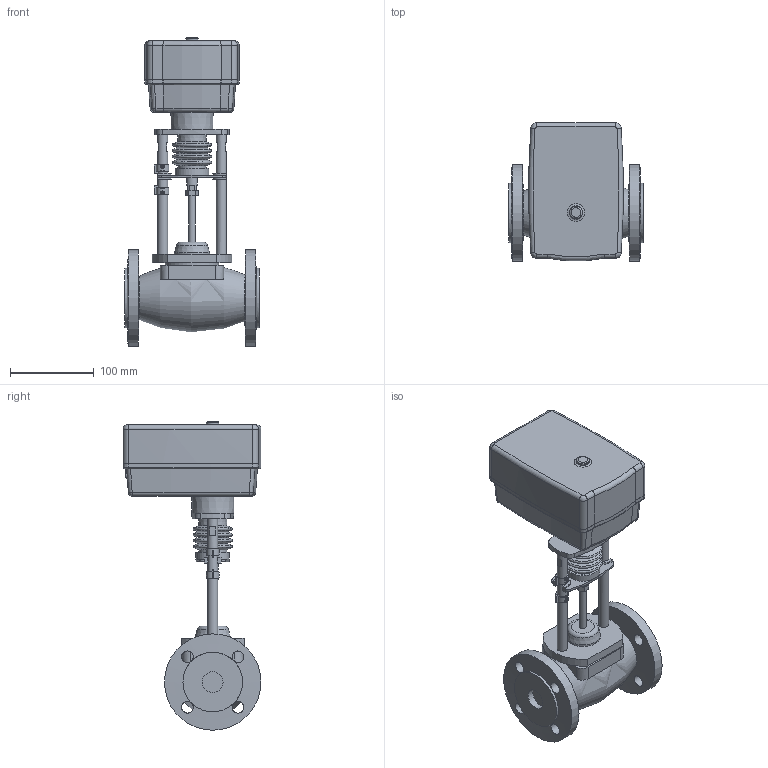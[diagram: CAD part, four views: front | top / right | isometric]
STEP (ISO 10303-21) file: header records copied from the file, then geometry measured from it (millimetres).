
FILE_DESCRIPTION(/* description */ ('Unknown'),/* implementation_level */ '2;1');
FILE_NAME(/* name */ 'Клапан TRV-025-101',/* time_stamp */ '2021-12-06T16:10:27+03:00',/* author */ ('Unknown'),/* organization */ ('Unknown'),/* preprocessor_version */ 'ST-DEVELOPER v16.7',/* originating_system */ 'DEX',/* authorisation */ $);
FILE_SCHEMA (('AUTOMOTIVE_DESIGN {1 0 10303 214 3 1 1}'));
Length unit declared in the file: millimetre
Products named in the file (1): 抔黽鳧 TRV-025-101
Bounding box: 160 x 164.51 x 367.9 mm (x, y, z)
Volume: 2537919.5 mm3; surface area: 207049 mm2
Topology: 1 solids, 1 shells, 315 faces, 831 edges, 527 vertices
Faces by surface type: plane 155, cylinder 78, torus 33, cone 26, bspline 19, sphere 4
Full cylindrical faces by diameter (mm): 8.2 x1, 12.002 x4, 13 x1, 14 x8, 15 x1, 24.8 x2, 33.4 x1, 40 x1, 42 x1, 64 x1, 71 x2, 115 x2
Entity records: 11928 total; most frequent: CARTESIAN_POINT 2388, DIRECTION 1521, ORIENTED_EDGE 1466, EDGE_CURVE 733, AXIS2_PLACEMENT_3D 590, VERTEX_POINT 484, EDGE_LOOP 403, FACE_BOUND 403
